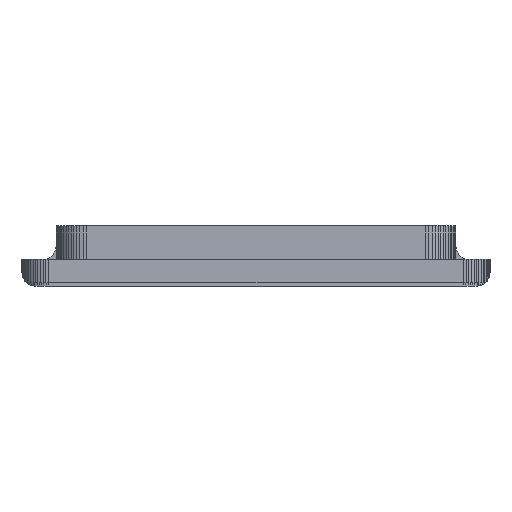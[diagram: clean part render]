
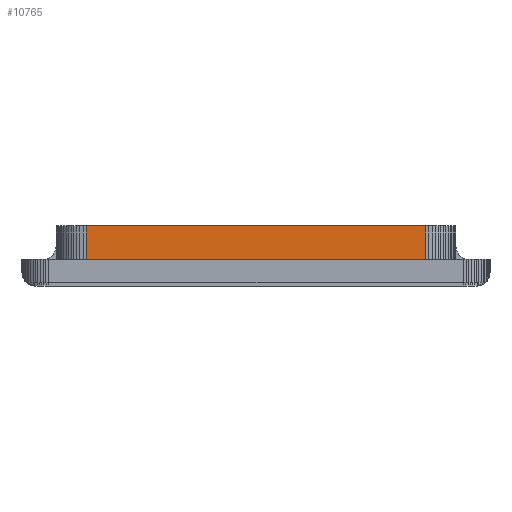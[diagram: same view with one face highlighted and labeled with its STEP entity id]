
A CAD part, left-side view. The second image highlights one B-rep face of the part: STEP entity #10765.
In plain terms, the highlighted planar face has unit normal (-1, 0, 0).
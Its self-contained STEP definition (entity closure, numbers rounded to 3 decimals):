
#118 = PLANE('',#119);
#119 = AXIS2_PLACEMENT_3D('',#120,#121,#122);
#120 = CARTESIAN_POINT('',(-6.,160.35,0.));
#121 = DIRECTION('',(0.,-1.,0.));
#122 = DIRECTION('',(1.,0.,0.));
#2478 = VERTEX_POINT('',#2479);
#2479 = CARTESIAN_POINT('',(-54.9,160.35,-25.4));
#2493 = PLANE('',#2494);
#2494 = AXIS2_PLACEMENT_3D('',#2495,#2496,#2497);
#2495 = CARTESIAN_POINT('',(-54.9,160.35,-25.4));
#2496 = DIRECTION('',(0.999,0.,
    0.052));
#2497 = DIRECTION('',(0.052,0.,
    -0.999));
#2505 = EDGE_CURVE('',#2506,#2478,#2508,.T.);
#2506 = VERTEX_POINT('',#2507);
#2507 = CARTESIAN_POINT('',(-54.9,160.35,25.4));
#2508 = SURFACE_CURVE('',#2509,(#2513,#2520),.PCURVE_S1.);
#2509 = LINE('',#2510,#2511);
#2510 = CARTESIAN_POINT('',(-54.9,160.35,25.4));
#2511 = VECTOR('',#2512,1.);
#2512 = DIRECTION('',(0.,0.,-1.));
#2513 = PCURVE('',#118,#2514);
#2514 = DEFINITIONAL_REPRESENTATION('',(#2515),#2519);
#2515 = LINE('',#2516,#2517);
#2516 = CARTESIAN_POINT('',(-48.9,25.4));
#2517 = VECTOR('',#2518,1.);
#2518 = DIRECTION('',(0.,-1.));
#2519 = ( GEOMETRIC_REPRESENTATION_CONTEXT(2) 
PARAMETRIC_REPRESENTATION_CONTEXT() REPRESENTATION_CONTEXT('2D SPACE',''
  ) );
#2520 = PCURVE('',#2521,#2526);
#2521 = PLANE('',#2522);
#2522 = AXIS2_PLACEMENT_3D('',#2523,#2524,#2525);
#2523 = CARTESIAN_POINT('',(-54.9,160.35,25.4));
#2524 = DIRECTION('',(1.,0.,0.));
#2525 = DIRECTION('',(0.,0.,-1.));
#2526 = DEFINITIONAL_REPRESENTATION('',(#2527),#2531);
#2527 = LINE('',#2528,#2529);
#2528 = CARTESIAN_POINT('',(0.,0.));
#2529 = VECTOR('',#2530,1.);
#2530 = DIRECTION('',(1.,0.));
#2531 = ( GEOMETRIC_REPRESENTATION_CONTEXT(2) 
PARAMETRIC_REPRESENTATION_CONTEXT() REPRESENTATION_CONTEXT('2D SPACE',''
  ) );
#2549 = PLANE('',#2550);
#2550 = AXIS2_PLACEMENT_3D('',#2551,#2552,#2553);
#2551 = CARTESIAN_POINT('',(-54.875,160.35,25.87));
#2552 = DIRECTION('',(0.999,0.,
    -0.052));
#2553 = DIRECTION('',(-0.052,0.,
    -0.999));
#7971 = PLANE('',#7972);
#7972 = AXIS2_PLACEMENT_3D('',#7973,#7974,#7975);
#7973 = CARTESIAN_POINT('',(-6.,155.35,0.));
#7974 = DIRECTION('',(0.,-1.,0.));
#7975 = DIRECTION('',(1.,0.,0.));
#10722 = VERTEX_POINT('',#10723);
#10723 = CARTESIAN_POINT('',(-54.9,155.35,25.4));
#10744 = EDGE_CURVE('',#2506,#10722,#10745,.T.);
#10745 = SURFACE_CURVE('',#10746,(#10750,#10757),.PCURVE_S1.);
#10746 = LINE('',#10747,#10748);
#10747 = CARTESIAN_POINT('',(-54.9,160.35,25.4));
#10748 = VECTOR('',#10749,1.);
#10749 = DIRECTION('',(0.,-1.,0.));
#10750 = PCURVE('',#2549,#10751);
#10751 = DEFINITIONAL_REPRESENTATION('',(#10752),#10756);
#10752 = LINE('',#10753,#10754);
#10753 = CARTESIAN_POINT('',(0.471,0.));
#10754 = VECTOR('',#10755,1.);
#10755 = DIRECTION('',(0.,-1.));
#10756 = ( GEOMETRIC_REPRESENTATION_CONTEXT(2) 
PARAMETRIC_REPRESENTATION_CONTEXT() REPRESENTATION_CONTEXT('2D SPACE',''
  ) );
#10757 = PCURVE('',#2521,#10758);
#10758 = DEFINITIONAL_REPRESENTATION('',(#10759),#10763);
#10759 = LINE('',#10760,#10761);
#10760 = CARTESIAN_POINT('',(0.,0.));
#10761 = VECTOR('',#10762,1.);
#10762 = DIRECTION('',(0.,-1.));
#10763 = ( GEOMETRIC_REPRESENTATION_CONTEXT(2) 
PARAMETRIC_REPRESENTATION_CONTEXT() REPRESENTATION_CONTEXT('2D SPACE',''
  ) );
#10765 = ADVANCED_FACE('',(#10766),#2521,.F.);
#10766 = FACE_BOUND('',#10767,.F.);
#10767 = EDGE_LOOP('',(#10768,#10769,#10792,#10813));
#10768 = ORIENTED_EDGE('',*,*,#10744,.T.);
#10769 = ORIENTED_EDGE('',*,*,#10770,.T.);
#10770 = EDGE_CURVE('',#10722,#10771,#10773,.T.);
#10771 = VERTEX_POINT('',#10772);
#10772 = CARTESIAN_POINT('',(-54.9,155.35,-25.4));
#10773 = SURFACE_CURVE('',#10774,(#10778,#10785),.PCURVE_S1.);
#10774 = LINE('',#10775,#10776);
#10775 = CARTESIAN_POINT('',(-54.9,155.35,25.4));
#10776 = VECTOR('',#10777,1.);
#10777 = DIRECTION('',(0.,0.,-1.));
#10778 = PCURVE('',#2521,#10779);
#10779 = DEFINITIONAL_REPRESENTATION('',(#10780),#10784);
#10780 = LINE('',#10781,#10782);
#10781 = CARTESIAN_POINT('',(0.,-5.));
#10782 = VECTOR('',#10783,1.);
#10783 = DIRECTION('',(1.,0.));
#10784 = ( GEOMETRIC_REPRESENTATION_CONTEXT(2) 
PARAMETRIC_REPRESENTATION_CONTEXT() REPRESENTATION_CONTEXT('2D SPACE',''
  ) );
#10785 = PCURVE('',#7971,#10786);
#10786 = DEFINITIONAL_REPRESENTATION('',(#10787),#10791);
#10787 = LINE('',#10788,#10789);
#10788 = CARTESIAN_POINT('',(-48.9,25.4));
#10789 = VECTOR('',#10790,1.);
#10790 = DIRECTION('',(0.,-1.));
#10791 = ( GEOMETRIC_REPRESENTATION_CONTEXT(2) 
PARAMETRIC_REPRESENTATION_CONTEXT() REPRESENTATION_CONTEXT('2D SPACE',''
  ) );
#10792 = ORIENTED_EDGE('',*,*,#10793,.F.);
#10793 = EDGE_CURVE('',#2478,#10771,#10794,.T.);
#10794 = SURFACE_CURVE('',#10795,(#10799,#10806),.PCURVE_S1.);
#10795 = LINE('',#10796,#10797);
#10796 = CARTESIAN_POINT('',(-54.9,160.35,-25.4));
#10797 = VECTOR('',#10798,1.);
#10798 = DIRECTION('',(0.,-1.,0.));
#10799 = PCURVE('',#2521,#10800);
#10800 = DEFINITIONAL_REPRESENTATION('',(#10801),#10805);
#10801 = LINE('',#10802,#10803);
#10802 = CARTESIAN_POINT('',(50.8,0.));
#10803 = VECTOR('',#10804,1.);
#10804 = DIRECTION('',(0.,-1.));
#10805 = ( GEOMETRIC_REPRESENTATION_CONTEXT(2) 
PARAMETRIC_REPRESENTATION_CONTEXT() REPRESENTATION_CONTEXT('2D SPACE',''
  ) );
#10806 = PCURVE('',#2493,#10807);
#10807 = DEFINITIONAL_REPRESENTATION('',(#10808),#10812);
#10808 = LINE('',#10809,#10810);
#10809 = CARTESIAN_POINT('',(0.,0.));
#10810 = VECTOR('',#10811,1.);
#10811 = DIRECTION('',(0.,-1.));
#10812 = ( GEOMETRIC_REPRESENTATION_CONTEXT(2) 
PARAMETRIC_REPRESENTATION_CONTEXT() REPRESENTATION_CONTEXT('2D SPACE',''
  ) );
#10813 = ORIENTED_EDGE('',*,*,#2505,.F.);
